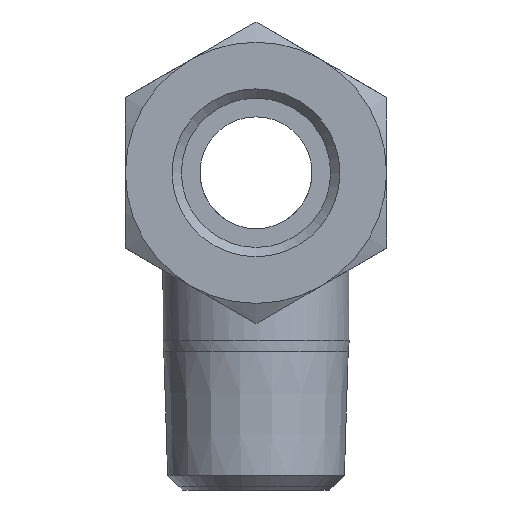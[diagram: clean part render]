
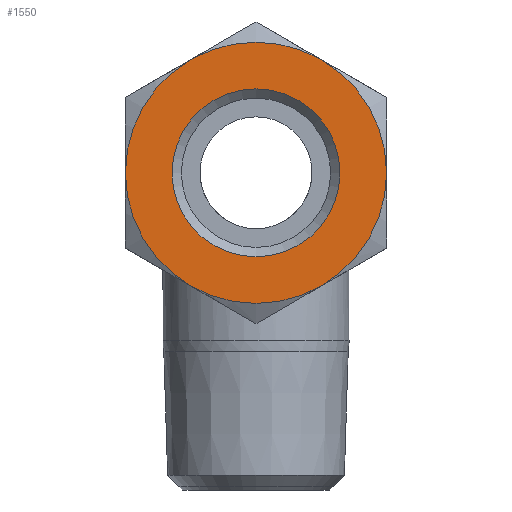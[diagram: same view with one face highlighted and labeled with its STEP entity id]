
A CAD part, left-side view. The second image highlights one B-rep face of the part: STEP entity #1550.
In plain terms, the highlighted planar face has unit normal (-1, 0, 0).
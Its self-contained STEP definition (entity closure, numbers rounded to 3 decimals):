
#1550=ADVANCED_FACE('', (#1560,#1570), #1580, .T.);
#7400=AXIS2_PLACEMENT_3D('Ax2Pl3d', #7410, #7420, #7430);
#7440=AXIS2_PLACEMENT_3D('Ax2Pl3d', #7450, #7460, #7470);
#7480=AXIS2_PLACEMENT_3D('Ax2Pl3d', #7490, #7500, #7510);
#7520=AXIS2_PLACEMENT_3D('Ax2Pl3d', #7530, #7540, #7550);
#7560=AXIS2_PLACEMENT_3D('Ax2Pl3d', #7570, #7580, #7590);
#7600=AXIS2_PLACEMENT_3D('Ax2Pl3d', #7610, #7620, #7630);
#7640=AXIS2_PLACEMENT_3D('Ax2Pl3d', #7650, #7660, #7670);
#7680=AXIS2_PLACEMENT_3D('Ax2Pl3d', #7690, #7700, #7710);
#44870=CARTESIAN_POINT('', (8.294,3.5,22.873));
#44900=CARTESIAN_POINT('', (8.294,7.,28.935));
#44930=CARTESIAN_POINT('', (8.294,3.5,34.997));
#44960=CARTESIAN_POINT('', (8.294,-3.5,34.997));
#44990=CARTESIAN_POINT('', (8.294,-7.,28.935));
#45000=CARTESIAN_POINT('', (8.294,-3.5,22.873));
#7410=CARTESIAN_POINT('HicPkt', (8.294,0.,28.935));
#7450=CARTESIAN_POINT('HicPkt', (8.294,0.,35.935));
#7490=CARTESIAN_POINT('HicPkt', (8.294,0.,28.935));
#7530=CARTESIAN_POINT('HicPkt', (8.294,0.,28.935));
#7570=CARTESIAN_POINT('HicPkt', (8.294,0.,28.935));
#7610=CARTESIAN_POINT('HicPkt', (8.294,0.,28.935));
#7650=CARTESIAN_POINT('HicPkt', (8.294,0.,28.935));
#7690=CARTESIAN_POINT('HicPkt', (8.294,0.,28.935));
#45010=CARTESIAN_POINT('', (8.294,4.5,28.935));
#46970=CIRCLE('Circle', #7400, 7.);
#46980=CIRCLE('Circle', #7480, 7.);
#46990=CIRCLE('Circle', #7520, 7.);
#47000=CIRCLE('Circle', #7560, 7.);
#47010=CIRCLE('Circle', #7600, 7.);
#47020=CIRCLE('Circle', #7640, 7.);
#47030=CIRCLE('Circle', #7680, 4.5);
#7420=DIRECTION('Axis', (1.,0.,0.));
#7430=DIRECTION('RefDirection', (0.,-0.,-1.));
#7460=DIRECTION('Axis', (-1.,0.,0.)
);
#7470=DIRECTION('RefDirection', (0.,
0.,-1.));
#7500=DIRECTION('Axis', (1.,0.,0.));
#7510=DIRECTION('RefDirection', (0.,-0.,-1.));
#7540=DIRECTION('Axis', (1.,0.,0.));
#7550=DIRECTION('RefDirection', (0.,-0.,-1.));
#7580=DIRECTION('Axis', (1.,0.,0.));
#7590=DIRECTION('RefDirection', (0.,-0.,-1.));
#7620=DIRECTION('Axis', (1.,0.,0.));
#7630=DIRECTION('RefDirection', (0.,-0.,-1.));
#7660=DIRECTION('Axis', (1.,0.,0.));
#7670=DIRECTION('RefDirection', (0.,-0.,-1.));
#7700=DIRECTION('Axis', (1.,0.,0.));
#7710=DIRECTION('RefDirection', (0.,-0.,-1.));
#56410=EDGE_CURVE('', #56300, #56360, #46970, .T.);
#56420=EDGE_CURVE('', #56240, #56300, #46980, .T.);
#56430=EDGE_CURVE('', #56180, #56240, #46990, .T.);
#56440=EDGE_CURVE('', #56120, #56180, #47000, .T.);
#56450=EDGE_CURVE('', #56390, #56120, #47010, .T.);
#56460=EDGE_CURVE('', #56360, #56390, #47020, .T.);
#56470=EDGE_CURVE('', #56480, #56480, #47030, .T.);
#61760=EDGE_LOOP('Edge_loop', (#61770,#61780,#61790,#61800,#61810,
#61820));
#61830=EDGE_LOOP('Edge_loop', (#61840));
#1570=FACE_BOUND('', #61830, .T.);
#1560=FACE_OUTER_BOUND('Face_outer_bound', #61760, .T.);
#61770=ORIENTED_EDGE('', *, *, #56410, .F.);
#61780=ORIENTED_EDGE('', *, *, #56420, .F.);
#61790=ORIENTED_EDGE('', *, *, #56430, .F.);
#61800=ORIENTED_EDGE('', *, *, #56440, .F.);
#61810=ORIENTED_EDGE('', *, *, #56450, .F.);
#61820=ORIENTED_EDGE('', *, *, #56460, .F.);
#61840=ORIENTED_EDGE('', *, *, #56470, .T.);
#1580=PLANE('Plane', #7440);
#56120=VERTEX_POINT('', #44870);
#56180=VERTEX_POINT('', #44900);
#56240=VERTEX_POINT('', #44930);
#56300=VERTEX_POINT('', #44960);
#56360=VERTEX_POINT('', #44990);
#56390=VERTEX_POINT('', #45000);
#56480=VERTEX_POINT('', #45010);
